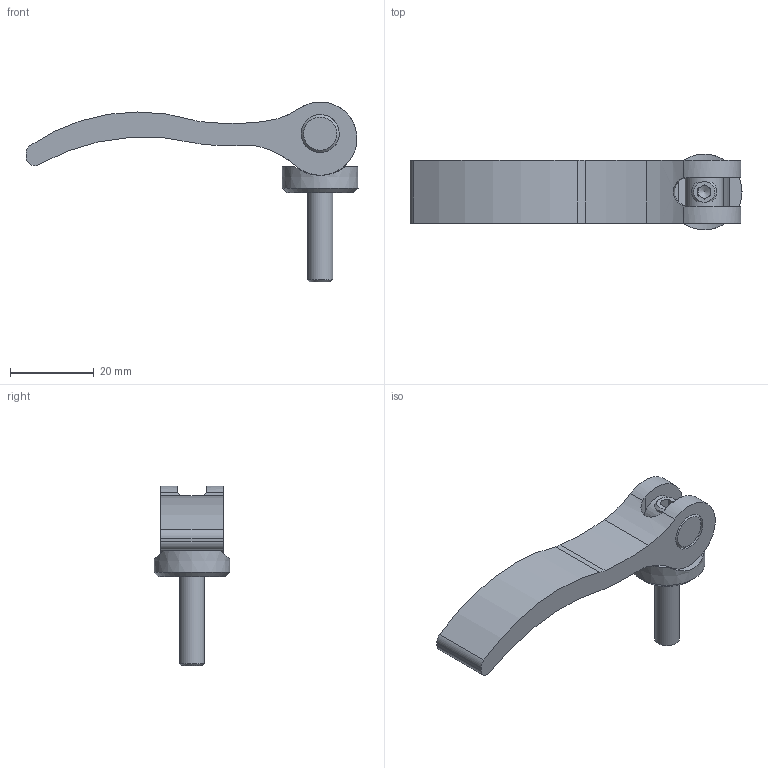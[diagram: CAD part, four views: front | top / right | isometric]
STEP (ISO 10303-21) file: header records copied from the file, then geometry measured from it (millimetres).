
FILE_DESCRIPTION(('STEP AP203'), '1');
FILE_NAME('À00360.11790620 _ Ýêñöåíòðèê 79 ìì', '', ('UNSPECIFIED'), ('UNSPECIFIED'), 'C3D Converter', 'C3D Toolkit', '');
FILE_SCHEMA(('CONFIG_CONTROL_DESIGN'));
Length unit declared in the file: millimetre
Products named in the file (5): А00360.79.03; А00360.79.02; А00360.79.01
Assembly tree (4 placements, depth 2):
  (unnamed)
    А00360.79.03
    А00360.79.02
    А00360.79.01
    (unnamed)
Bounding box: 79.33 x 18.07 x 43 mm (x, y, z)
Volume: 10080.2 mm3; surface area: 6361.6 mm2
Topology: 4 solids, 4 shells, 52 faces, 128 edges, 82 vertices
Faces by surface type: plane 24, cylinder 21, cone 7
Full cylindrical faces by diameter (mm): 4.917 x1, 6 x1, 6.6 x1, 9.1 x3
Entity records: 2382 total; most frequent: CARTESIAN_POINT 913, DIRECTION 269, ORIENTED_EDGE 228, EDGE_CURVE 114, AXIS2_PLACEMENT_3D 111, VERTEX_POINT 81, EDGE_LOOP 71, FACE_BOUND 54
